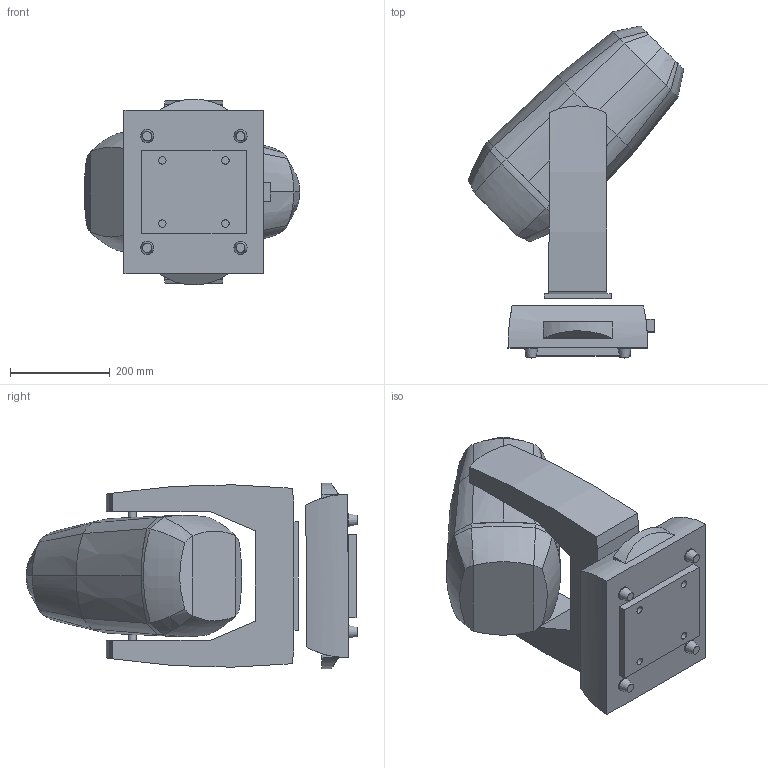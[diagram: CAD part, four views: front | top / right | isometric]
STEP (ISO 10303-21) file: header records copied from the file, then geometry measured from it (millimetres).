
FILE_DESCRIPTION(/* description */ (''),/* implementation_level */ '2;1');
FILE_NAME(/* name */ 'D:/dgooch/Documents/CADENG/PRO/Rogue Outcast 1 Hybrid/45/3D/Rogue Outcast 1 Hybrid_45.step',/* time_stamp */ '2020-01-27T09:29:27-05:00',/* author */ (''),/* organization */ (''),/* preprocessor_version */ 'ST-DEVELOPER v18',/* originating_system */ 'Autodesk Translation Framework v8.12.0.6',/* authorisation */ '');
FILE_SCHEMA (('AUTOMOTIVE_DESIGN { 1 0 10303 214 3 1 1 }'));
Length unit declared in the file: millimetre
Products named in the file (4): Rogue Outcast 1 Hybrid-20200117; Head (1); Base (1); Arm (1)
Assembly tree (3 placements, depth 2):
  Rogue Outcast 1 Hybrid-20200117
    Head (1)
    Base (1)
    Arm (1)
Bounding box: 432.31 x 665.27 x 372.32 mm (x, y, z)
Volume: 33519938.8 mm3; surface area: 1098014.5 mm2
Topology: 3 solids, 3 shells, 128 faces, 322 edges, 210 vertices
Faces by surface type: bspline 50, plane 49, cylinder 21, cone 8
Full cylindrical faces by diameter (mm): 14.903 x4, 16.258 x2, 26.194 x4, 119.599 x1
Entity records: 30328 total; most frequent: CARTESIAN_POINT 27371, ORIENTED_EDGE 644, DIRECTION 494, EDGE_CURVE 322, VERTEX_POINT 210, AXIS2_PLACEMENT_3D 178, EDGE_LOOP 146, LINE 138
